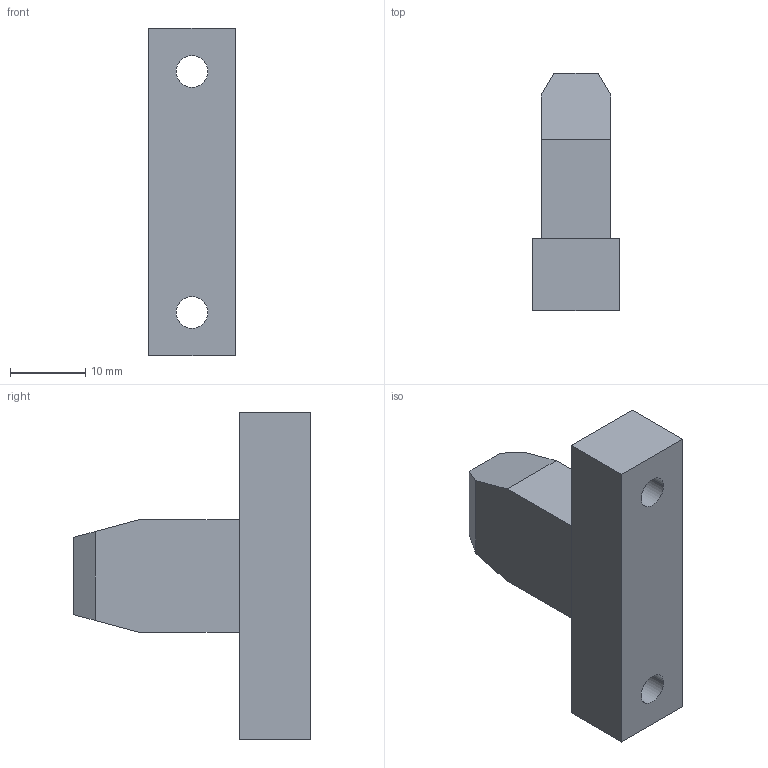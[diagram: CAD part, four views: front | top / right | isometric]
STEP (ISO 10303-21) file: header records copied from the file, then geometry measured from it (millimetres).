
FILE_DESCRIPTION (( 'STEP AP214' ), '1' );
FILE_NAME ('_Frontbefestigung Anschraub.step', '2010-07-06T11:54:34', ( 'grass' ), ( '' ), 'SwSTEP 2.0', 'SolidWorks 2010', '' );
FILE_SCHEMA (( 'AUTOMOTIVE_DESIGN' ));
Length unit declared in the file: millimetre
Products named in the file (1): _Frontbefestigung Anschraub
Bounding box: 11.5 x 31.5 x 43.5 mm (x, y, z)
Volume: 7281 mm3; surface area: 3191.6 mm2
Topology: 1 solids, 1 shells, 19 faces, 48 edges, 32 vertices
Faces by surface type: plane 15, cylinder 4
Entity records: 612 total; most frequent: CARTESIAN_POINT 100, ORIENTED_EDGE 96, DIRECTION 96, EDGE_CURVE 48, LINE 40, VECTOR 40, VERTEX_POINT 32, AXIS2_PLACEMENT_3D 28
